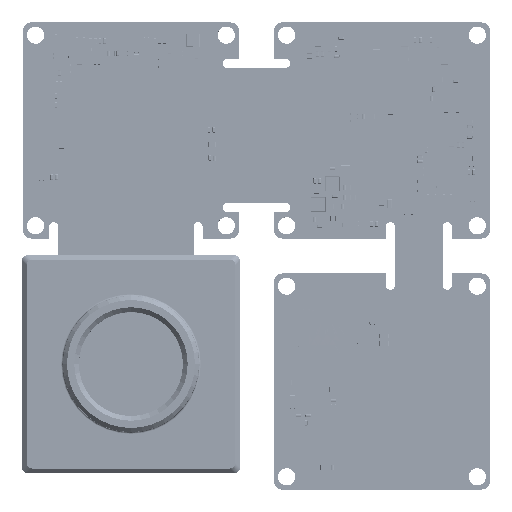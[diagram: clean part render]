
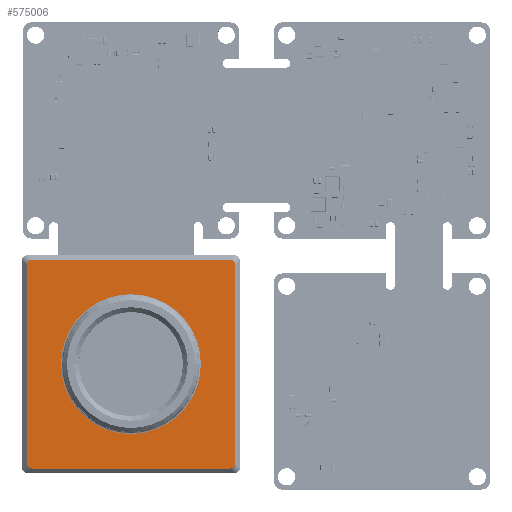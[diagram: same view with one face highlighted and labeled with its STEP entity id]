
A CAD part, top view. The second image highlights one B-rep face of the part: STEP entity #575006.
In plain terms, the highlighted planar face has unit normal (0, 0, 1).
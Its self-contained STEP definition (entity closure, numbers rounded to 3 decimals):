
#1162 = LINE ( 'NONE', #356609, #172767 ) ;
#12498 = FACE_BOUND ( 'NONE', #255805, .T. ) ;
#21759 = EDGE_CURVE ( 'NONE', #322355, #88882, #305218, .T. ) ;
#23498 = ORIENTED_EDGE ( 'NONE', *, *, #452133, .T. ) ;
#24226 = CARTESIAN_POINT ( 'NONE',  ( -10.899, -11.5, 8. ) ) ;
#34070 = CARTESIAN_POINT ( 'NONE',  ( -11.5, -10.899, 8. ) ) ;
#35146 = CARTESIAN_POINT ( 'NONE',  ( 11.5, -10.899, 8. ) ) ;
#35317 = DIRECTION ( 'NONE',  ( -1., 0., 0. ) ) ;
#63776 = CARTESIAN_POINT ( 'NONE',  ( 11.5, 10.899, 8. ) ) ;
#65329 = CARTESIAN_POINT ( 'NONE',  ( 11.5, 11.28, 8. ) ) ;
#65501 = CARTESIAN_POINT ( 'NONE',  ( -11.5, 10.899, 8. ) ) ;
#69642 = CARTESIAN_POINT ( 'NONE',  ( -11.5, 11.28, 8. ) ) ;
#69905 = EDGE_CURVE ( 'NONE', #330928, #116086, #344574, .T. ) ;
#72299 = FACE_OUTER_BOUND ( 'NONE', #405308, .T. ) ;
#74613 = ORIENTED_EDGE ( 'NONE', *, *, #229865, .T. ) ;
#78719 = DIRECTION ( 'NONE',  ( 0., -1., 0. ) ) ;
#88882 = VERTEX_POINT ( 'NONE', #239633 ) ;
#94157 = AXIS2_PLACEMENT_3D ( 'NONE', #583531, #485627, #246334 ) ;
#98293 = VERTEX_POINT ( 'NONE', #479341 ) ;
#111468 = DIRECTION ( 'NONE',  ( 1., 0., 0. ) ) ;
#116086 = VERTEX_POINT ( 'NONE', #256939 ) ;
#120464 = CARTESIAN_POINT ( 'NONE',  ( -11.5, 0., 8. ) ) ;
#121979 = ORIENTED_EDGE ( 'NONE', *, *, #427788, .T. ) ;
#125672 = CARTESIAN_POINT ( 'NONE',  ( 10.899, 11.5, 8. ) ) ;
#128146 = VERTEX_POINT ( 'NONE', #63776 ) ;
#150734 = VECTOR ( 'NONE', #78719, 1000. ) ;
#163892 = CARTESIAN_POINT ( 'NONE',  ( -11.28, -11.5, 8. ) ) ;
#172767 = VECTOR ( 'NONE', #111468, 1000. ) ;
#175612 = CARTESIAN_POINT ( 'NONE',  ( 11.28, 11.5, 8. ) ) ;
#183077 = CARTESIAN_POINT ( 'NONE',  ( 0., 0., 8. ) ) ;
#189587 = CARTESIAN_POINT ( 'NONE',  ( 10.899, 11.5, 8. ) ) ;
#195670 = LINE ( 'NONE', #320400, #225532 ) ;
#198954 = CARTESIAN_POINT ( 'NONE',  ( -7.7, 0., 8. ) ) ;
#205979 = EDGE_CURVE ( 'NONE', #386482, #566694, #385178, .T. ) ;
#207203 = CARTESIAN_POINT ( 'NONE',  ( -10.899, 11.5, 8. ) ) ;
#215213 =( BOUNDED_CURVE ( )  B_SPLINE_CURVE ( 3, ( #587914, #65329, #175612, #125672 ),
 .UNSPECIFIED., .F., .F. ) 
 B_SPLINE_CURVE_WITH_KNOTS ( ( 4, 4 ),
 ( 2.618, 3.665 ),
 .UNSPECIFIED. ) 
 CURVE ( )  GEOMETRIC_REPRESENTATION_ITEM ( )  RATIONAL_B_SPLINE_CURVE ( ( 1., 0.911, 0.911, 1. ) ) 
 REPRESENTATION_ITEM ( '' )  );
#221119 = ORIENTED_EDGE ( 'NONE', *, *, #456850, .T. ) ;
#225532 = VECTOR ( 'NONE', #35317, 1000. ) ;
#229865 = EDGE_CURVE ( 'NONE', #593011, #98293, #613432, .T. ) ;
#230797 = DIRECTION ( 'NONE',  ( -1., 0., 0. ) ) ;
#230940 = ORIENTED_EDGE ( 'NONE', *, *, #298341, .T. ) ;
#239633 = CARTESIAN_POINT ( 'NONE',  ( -10.899, -11.5, 8. ) ) ;
#243040 = CARTESIAN_POINT ( 'NONE',  ( 7.7, 0., 8. ) ) ;
#246334 = DIRECTION ( 'NONE',  ( -1., 0., 0. ) ) ;
#255805 = EDGE_LOOP ( 'NONE', ( #267946, #121979 ) ) ;
#256939 = CARTESIAN_POINT ( 'NONE',  ( -11.5, 10.899, 8. ) ) ;
#264071 = PLANE ( 'NONE',  #362577 ) ;
#267946 = ORIENTED_EDGE ( 'NONE', *, *, #205979, .T. ) ;
#287446 = DIRECTION ( 'NONE',  ( 0., 1., 0. ) ) ;
#298341 = EDGE_CURVE ( 'NONE', #128146, #601118, #215213, .T. ) ;
#305218 =( BOUNDED_CURVE ( )  B_SPLINE_CURVE ( 3, ( #352939, #448772, #163892, #24226 ),
 .UNSPECIFIED., .F., .F. ) 
 B_SPLINE_CURVE_WITH_KNOTS ( ( 4, 4 ),
 ( 5.76, 6.807 ),
 .UNSPECIFIED. ) 
 CURVE ( )  GEOMETRIC_REPRESENTATION_ITEM ( )  RATIONAL_B_SPLINE_CURVE ( ( 1., 0.911, 0.911, 1. ) ) 
 REPRESENTATION_ITEM ( '' )  );
#320400 = CARTESIAN_POINT ( 'NONE',  ( 0., 11.5, 8. ) ) ;
#322355 = VERTEX_POINT ( 'NONE', #34070 ) ;
#326722 = ORIENTED_EDGE ( 'NONE', *, *, #21759, .T. ) ;
#330928 = VERTEX_POINT ( 'NONE', #507656 ) ;
#337176 = CARTESIAN_POINT ( 'NONE',  ( 10.899, -11.5, 8. ) ) ;
#344574 =( BOUNDED_CURVE ( )  B_SPLINE_CURVE ( 3, ( #207203, #448347, #69642, #65501 ),
 .UNSPECIFIED., .F., .F. ) 
 B_SPLINE_CURVE_WITH_KNOTS ( ( 4, 4 ),
 ( 5.76, 6.807 ),
 .UNSPECIFIED. ) 
 CURVE ( )  GEOMETRIC_REPRESENTATION_ITEM ( )  RATIONAL_B_SPLINE_CURVE ( ( 1., 0.911, 0.911, 1. ) ) 
 REPRESENTATION_ITEM ( '' )  );
#349797 = VECTOR ( 'NONE', #287446, 1000. ) ;
#352939 = CARTESIAN_POINT ( 'NONE',  ( -11.5, -10.899, 8. ) ) ;
#356609 = CARTESIAN_POINT ( 'NONE',  ( 0., -11.5, 8. ) ) ;
#362577 = AXIS2_PLACEMENT_3D ( 'NONE', #183077, #515911, #230797 ) ;
#385178 = CIRCLE ( 'NONE', #94157, 7.7 ) ;
#386482 = VERTEX_POINT ( 'NONE', #198954 ) ;
#389227 = CARTESIAN_POINT ( 'NONE',  ( 11.5, 0., 8. ) ) ;
#405308 = EDGE_LOOP ( 'NONE', ( #441826, #74613, #23498, #230940, #468673, #584176, #221119, #326722 ) ) ;
#427788 = EDGE_CURVE ( 'NONE', #566694, #386482, #612002, .T. ) ;
#441826 = ORIENTED_EDGE ( 'NONE', *, *, #451062, .T. ) ;
#444844 = AXIS2_PLACEMENT_3D ( 'NONE', #507302, #563415, #607277 ) ;
#448347 = CARTESIAN_POINT ( 'NONE',  ( -11.28, 11.5, 8. ) ) ;
#448772 = CARTESIAN_POINT ( 'NONE',  ( -11.5, -11.28, 8. ) ) ;
#451062 = EDGE_CURVE ( 'NONE', #88882, #593011, #1162, .T. ) ;
#452133 = EDGE_CURVE ( 'NONE', #98293, #128146, #603438, .T. ) ;
#456850 = EDGE_CURVE ( 'NONE', #116086, #322355, #582556, .T. ) ;
#468673 = ORIENTED_EDGE ( 'NONE', *, *, #618011, .T. ) ;
#479341 = CARTESIAN_POINT ( 'NONE',  ( 11.5, -10.899, 8. ) ) ;
#485627 = DIRECTION ( 'NONE',  ( 0., 0., -1. ) ) ;
#507302 = CARTESIAN_POINT ( 'NONE',  ( 0., 0., 8. ) ) ;
#507656 = CARTESIAN_POINT ( 'NONE',  ( -10.899, 11.5, 8. ) ) ;
#513813 = CARTESIAN_POINT ( 'NONE',  ( 10.899, -11.5, 8. ) ) ;
#515911 = DIRECTION ( 'NONE',  ( 0., 0., -1. ) ) ;
#563415 = DIRECTION ( 'NONE',  ( 0., 0., -1. ) ) ;
#566694 = VERTEX_POINT ( 'NONE', #243040 ) ;
#575006 = ADVANCED_FACE ( 'NONE', ( #12498, #72299 ), #264071, .F. ) ;
#582556 = LINE ( 'NONE', #120464, #150734 ) ;
#583531 = CARTESIAN_POINT ( 'NONE',  ( 0., 0., 8. ) ) ;
#584176 = ORIENTED_EDGE ( 'NONE', *, *, #69905, .T. ) ;
#587914 = CARTESIAN_POINT ( 'NONE',  ( 11.5, 10.899, 8. ) ) ;
#593011 = VERTEX_POINT ( 'NONE', #337176 ) ;
#601118 = VERTEX_POINT ( 'NONE', #189587 ) ;
#603438 = LINE ( 'NONE', #389227, #349797 ) ;
#605606 = CARTESIAN_POINT ( 'NONE',  ( 11.28, -11.5, 8. ) ) ;
#607277 = DIRECTION ( 'NONE',  ( -1., 0., 0. ) ) ;
#607655 = CARTESIAN_POINT ( 'NONE',  ( 11.5, -11.28, 8. ) ) ;
#612002 = CIRCLE ( 'NONE', #444844, 7.7 ) ;
#613432 =( BOUNDED_CURVE ( )  B_SPLINE_CURVE ( 3, ( #513813, #605606, #607655, #35146 ),
 .UNSPECIFIED., .F., .F. ) 
 B_SPLINE_CURVE_WITH_KNOTS ( ( 4, 4 ),
 ( 2.618, 3.665 ),
 .UNSPECIFIED. ) 
 CURVE ( )  GEOMETRIC_REPRESENTATION_ITEM ( )  RATIONAL_B_SPLINE_CURVE ( ( 1., 0.911, 0.911, 1. ) ) 
 REPRESENTATION_ITEM ( '' )  );
#618011 = EDGE_CURVE ( 'NONE', #601118, #330928, #195670, .T. ) ;
